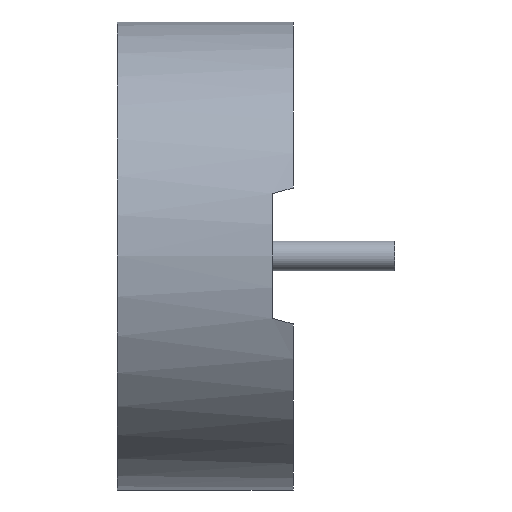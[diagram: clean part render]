
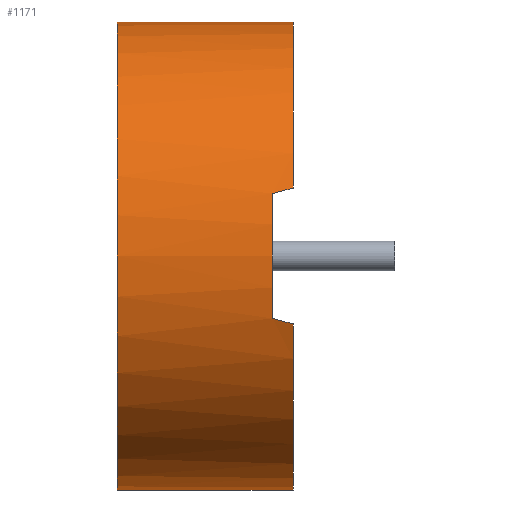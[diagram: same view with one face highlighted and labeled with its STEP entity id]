
A CAD part, left-side view. The second image highlights one B-rep face of the part: STEP entity #1171.
In plain terms, the highlighted cylindrical face has radius 14.287 mm (diameter 28.575 mm), a partial arc.
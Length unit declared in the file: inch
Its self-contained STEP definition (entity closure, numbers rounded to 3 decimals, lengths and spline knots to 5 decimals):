
#5 = EDGE_CURVE ( 'NONE', #501, #1103, #877, .T. ) ;
#21 = EDGE_CURVE ( 'NONE', #1127, #1070, #1049, .T. ) ;
#64 = CARTESIAN_POINT ( 'NONE',  ( -0.54213, 0.05, -0.15 ) ) ;
#86 = VERTEX_POINT ( 'NONE', #1050 ) ;
#100 = DIRECTION ( 'NONE',  ( 0., 1., 0. ) ) ;
#105 = CARTESIAN_POINT ( 'NONE',  ( 0., 0., 0. ) ) ;
#123 = DIRECTION ( 'NONE',  ( 0., 0., 1. ) ) ;
#135 = CARTESIAN_POINT ( 'NONE',  ( -0.5396, 0.01661, -0.15895 ) ) ;
#137 = CARTESIAN_POINT ( 'NONE',  ( -0.54089, 0.03327, -0.15448 ) ) ;
#148 = CARTESIAN_POINT ( 'NONE',  ( -0.54213, 0.05, -0.15 ) ) ;
#150 = CARTESIAN_POINT ( 'NONE',  ( -0.53824, 0., -0.1634 ) ) ;
#163 = EDGE_CURVE ( 'NONE', #359, #1103, #419, .T. ) ;
#170 = EDGE_CURVE ( 'NONE', #86, #501, #796, .T. ) ;
#197 = CARTESIAN_POINT ( 'NONE',  ( 0., 0., 0. ) ) ;
#226 = CARTESIAN_POINT ( 'NONE',  ( -0.54213, 0.05, 0.15 ) ) ;
#242 = FACE_OUTER_BOUND ( 'NONE', #312, .T. ) ;
#258 = CARTESIAN_POINT ( 'NONE',  ( 0., 0., 0.5625 ) ) ;
#260 = AXIS2_PLACEMENT_3D ( 'NONE', #526, #1021, #983 ) ;
#291 = CARTESIAN_POINT ( 'NONE',  ( -0.53824, 0., -0.1634 ) ) ;
#292 = VECTOR ( 'NONE', #1195, 39.37008 ) ;
#312 = EDGE_LOOP ( 'NONE', ( #694, #869, #823, #562, #884, #973, #363, #540 ) ) ;
#345 = AXIS2_PLACEMENT_3D ( 'NONE', #197, #1018, #1016 ) ;
#359 = VERTEX_POINT ( 'NONE', #573 ) ;
#361 = CARTESIAN_POINT ( 'NONE',  ( 0., 0.423, 0. ) ) ;
#363 = ORIENTED_EDGE ( 'NONE', *, *, #472, .T. ) ;
#365 = DIRECTION ( 'NONE',  ( 0., 0., -1. ) ) ;
#378 = CARTESIAN_POINT ( 'NONE',  ( 0., 0.423, -0.5625 ) ) ;
#390 = DIRECTION ( 'NONE',  ( 0., -1., 0. ) ) ;
#401 = VERTEX_POINT ( 'NONE', #603 ) ;
#417 = LINE ( 'NONE', #378, #423 ) ;
#419 = CIRCLE ( 'NONE', #345, 0.5625 ) ;
#423 = VECTOR ( 'NONE', #390, 39.37008 ) ;
#472 = EDGE_CURVE ( 'NONE', #1070, #359, #1215, .T. ) ;
#482 = AXIS2_PLACEMENT_3D ( 'NONE', #105, #100, #123 ) ;
#501 = VERTEX_POINT ( 'NONE', #653 ) ;
#526 = CARTESIAN_POINT ( 'NONE',  ( 0., 0.423, 0. ) ) ;
#540 = ORIENTED_EDGE ( 'NONE', *, *, #163, .T. ) ;
#546 = CIRCLE ( 'NONE', #482, 0.5625 ) ;
#562 = ORIENTED_EDGE ( 'NONE', *, *, #900, .T. ) ;
#573 = CARTESIAN_POINT ( 'NONE',  ( -0.53824, 0., 0.1634 ) ) ;
#603 = CARTESIAN_POINT ( 'NONE',  ( 0., 0., -0.5625 ) ) ;
#610 = AXIS2_PLACEMENT_3D ( 'NONE', #361, #888, #365 ) ;
#637 = CARTESIAN_POINT ( 'NONE',  ( -0.54213, 0.05, 0.15 ) ) ;
#642 = CARTESIAN_POINT ( 'NONE',  ( -0.54089, 0.03327, 0.15448 ) ) ;
#645 = CARTESIAN_POINT ( 'NONE',  ( -0.53824, 0., 0.1634 ) ) ;
#646 = CARTESIAN_POINT ( 'NONE',  ( -0.5396, 0.01661, 0.15895 ) ) ;
#653 = CARTESIAN_POINT ( 'NONE',  ( 0., 0.423, 0.5625 ) ) ;
#694 = ORIENTED_EDGE ( 'NONE', *, *, #5, .F. ) ;
#762 = EDGE_CURVE ( 'NONE', #86, #401, #417, .T. ) ;
#766 = CYLINDRICAL_SURFACE ( 'NONE', #610, 0.5625 ) ;
#796 = CIRCLE ( 'NONE', #260, 0.5625 ) ;
#823 = ORIENTED_EDGE ( 'NONE', *, *, #762, .T. ) ;
#869 = ORIENTED_EDGE ( 'NONE', *, *, #170, .F. ) ;
#877 = LINE ( 'NONE', #1256, #292 ) ;
#884 = ORIENTED_EDGE ( 'NONE', *, *, #969, .T. ) ;
#888 = DIRECTION ( 'NONE',  ( 0., -1., 0. ) ) ;
#892 =( BOUNDED_CURVE ( )  B_SPLINE_CURVE ( 3, ( #150, #135, #137, #148 ),
 .UNSPECIFIED., .F., .T. ) 
 B_SPLINE_CURVE_WITH_KNOTS ( ( 4, 4 ),
 ( 1.27606, 1.30086 ),
 .UNSPECIFIED. ) 
 CURVE ( )  GEOMETRIC_REPRESENTATION_ITEM ( )  RATIONAL_B_SPLINE_CURVE ( ( 1., 1., 1., 1. ) ) 
 REPRESENTATION_ITEM ( '' )  );
#900 = EDGE_CURVE ( 'NONE', #401, #1141, #546, .T. ) ;
#969 = EDGE_CURVE ( 'NONE', #1141, #1127, #892, .T. ) ;
#973 = ORIENTED_EDGE ( 'NONE', *, *, #21, .T. ) ;
#983 = DIRECTION ( 'NONE',  ( 0., 0., 1. ) ) ;
#1016 = DIRECTION ( 'NONE',  ( 0., 0., 1. ) ) ;
#1018 = DIRECTION ( 'NONE',  ( 0., 1., 0. ) ) ;
#1021 = DIRECTION ( 'NONE',  ( 0., 1., 0. ) ) ;
#1049 = CIRCLE ( 'NONE', #1226, 0.5625 ) ;
#1050 = CARTESIAN_POINT ( 'NONE',  ( 0., 0.423, -0.5625 ) ) ;
#1070 = VERTEX_POINT ( 'NONE', #226 ) ;
#1103 = VERTEX_POINT ( 'NONE', #258 ) ;
#1110 = DIRECTION ( 'NONE',  ( 0., 0., 1. ) ) ;
#1114 = DIRECTION ( 'NONE',  ( 0., 1., 0. ) ) ;
#1115 = CARTESIAN_POINT ( 'NONE',  ( 0., 0.05, 0. ) ) ;
#1127 = VERTEX_POINT ( 'NONE', #64 ) ;
#1141 = VERTEX_POINT ( 'NONE', #291 ) ;
#1171 = ADVANCED_FACE ( 'NONE', ( #242 ), #766, .T. ) ;
#1195 = DIRECTION ( 'NONE',  ( 0., -1., 0. ) ) ;
#1215 =( BOUNDED_CURVE ( )  B_SPLINE_CURVE ( 3, ( #637, #642, #646, #645 ),
 .UNSPECIFIED., .F., .T. ) 
 B_SPLINE_CURVE_WITH_KNOTS ( ( 4, 4 ),
 ( 4.98232, 5.00713 ),
 .UNSPECIFIED. ) 
 CURVE ( )  GEOMETRIC_REPRESENTATION_ITEM ( )  RATIONAL_B_SPLINE_CURVE ( ( 1., 1., 1., 1. ) ) 
 REPRESENTATION_ITEM ( '' )  );
#1226 = AXIS2_PLACEMENT_3D ( 'NONE', #1115, #1114, #1110 ) ;
#1256 = CARTESIAN_POINT ( 'NONE',  ( 0., 0.423, 0.5625 ) ) ;
